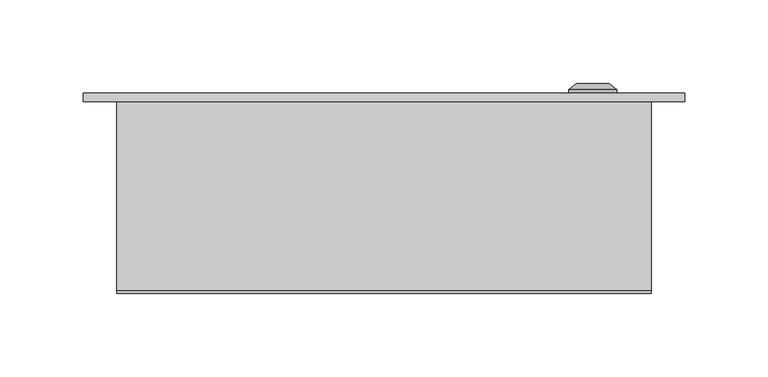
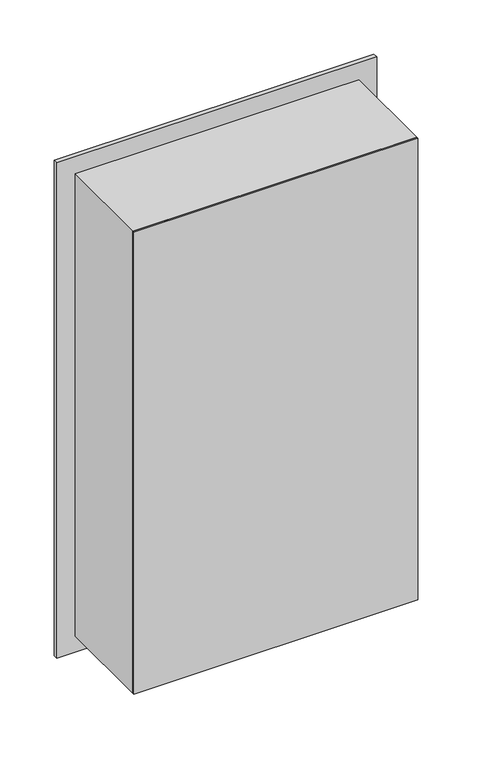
"""IFC4 building model written with IfcOpenShell, lengths in millimetres: proxy geometry, ЩРВ_36 : ЩРВ-36."""

from ifc_helpers import new_model, si_unit, frame, origin, origin_with_axes, place, context, project, spatial, polyline, circle_curve, outline, extrude, source, transform, mapped, element, save
from ifc_brep_helpers import plane_surface, cylinder_surface, revolved_surface, advanced_brep


def electrical_equipment_84546ef7(model_context):
    return source(origin(), model_context, "Body", "SolidModel", [
        extrude(outline(polyline([(570.0, -180.0033905), (-20.0, -180.0033905), (-20.0, 179.9966095), (570.0, 179.9966095), (570.0, -180.0033905)]), holes=[polyline([(545.0, -155.0), (545.0, 155.0), (5.0, 155.0), (5.0, -155.0), (545.0, -155.0)])]), frame((0.0, 115.0, 0.0), z_axis=(0.0, 1.0, 0.0), x_axis=(0.0, 0.0, 1.0)), (0.0, 0.0, 1.0), 5.0),
        advanced_brep(
        [(110.669873, 120.0, 275.0), (139.330127, 120.0, 275.0), (125.0, 120.0, 275.0), (110.669873, 122.366592, 275.0), (139.330127, 122.366592, 275.0), (115.0, 126.0, 275.0), (135.0, 126.0, 275.0), (123.1080471, 126.0, 275.0), (126.8919529, 126.0, 275.0), (123.1080471, 124.9822294, 275.0), (126.8919529, 124.9822294, 275.0), (125.0, 124.9822294, 275.0)],
        [
            (0, 1, circle_curve(frame((125.0, 120.0, 275.0), z_axis=(0.0, -1.0, 0.0), x_axis=(1.0, 0.0, 0.0)), 14.330127)),
            (1, 2),
            (2, 0),
            (1, 0, circle_curve(frame((125.0, 120.0, 275.0), z_axis=(0.0, -1.0, 0.0), x_axis=(1.0, 0.0, 0.0)), 14.330127)),
            (3, 4, circle_curve(frame((125.0, 122.366592, 275.0), z_axis=(0.0, -1.0, 0.0), x_axis=(1.0, 0.0, 0.0)), 14.330127)),
            (4, 1),
            (0, 3),
            (4, 3, circle_curve(frame((125.0, 122.366592, 275.0), z_axis=(0.0, -1.0, 0.0), x_axis=(1.0, 0.0, 0.0)), 14.330127)),
            (5, 6, circle_curve(frame((125.0, 126.0, 275.0), z_axis=(0.0, -1.0, 0.0), x_axis=(1.0, 0.0, 0.0)), 10.0)),
            (6, 4),
            (3, 5),
            (6, 5, circle_curve(frame((125.0, 126.0, 275.0), z_axis=(0.0, -1.0, 0.0), x_axis=(1.0, 0.0, 0.0)), 10.0)),
            (7, 8, circle_curve(frame((125.0, 126.0, 275.0), z_axis=(0.0, -1.0, 0.0), x_axis=(1.0, 0.0, 0.0)), 1.8919529)),
            (8, 6),
            (5, 7),
            (8, 7, circle_curve(frame((125.0, 126.0, 275.0), z_axis=(0.0, -1.0, 0.0), x_axis=(1.0, 0.0, 0.0)), 1.8919529)),
            (9, 10, circle_curve(frame((125.0, 124.9822294, 275.0), z_axis=(0.0, -1.0, 0.0), x_axis=(1.0, 0.0, 0.0)), 1.8919529)),
            (10, 8),
            (7, 9),
            (10, 9, circle_curve(frame((125.0, 124.9822294, 275.0), z_axis=(0.0, -1.0, 0.0), x_axis=(1.0, 0.0, 0.0)), 1.8919529)),
            (11, 10),
            (9, 11),
        ],
        [
            plane_surface(frame((125.0, 120.0, 275.0), z_axis=(0.0, -1.0, 0.0), x_axis=(1.0, 0.0, 0.0))),
            cylinder_surface(frame((125.0, 133.1348851, 275.0), z_axis=(0.0, 1.0, 0.0), x_axis=(1.0, 0.0, 0.0)), 14.330127),
            revolved_surface(polyline([(139.330127, 122.366592, 275.0), (135.0, 126.0, 275.0)]), (125.0, 133.1348851, 275.0), (0.0, 1.0, 0.0)),
            plane_surface(frame((125.0, 126.0, 275.0), z_axis=(0.0, 1.0, 0.0), x_axis=(1.0, 0.0, 0.0))),
            revolved_surface(polyline([(126.8919529, 126.0, 275.0), (126.8919529, 124.9822294, 275.0)]), (125.0, 133.1348851, 275.0), (0.0, 1.0, 0.0)),
            plane_surface(frame((125.0, 124.9822294, 275.0), z_axis=(0.0, 1.0, 0.0), x_axis=(1.0, 0.0, 0.0))),
        ],
        [
            (0, [[1, 2, 3]]),
            (0, [[4, -3, -2]]),
            (1, [[5, 6, -1, 7]]),
            (1, [[8, -7, -4, -6]]),
            (2, [[9, 10, -5, 11]]),
            (2, [[12, -11, -8, -10]]),
            (3, [[13, 14, -9, 15]]),
            (3, [[16, -15, -12, -14]]),
            (4, [[17, 18, -13, 19]]),
            (4, [[20, -19, -16, -18]]),
            (5, [[21, -17, 22]]),
            (5, [[-22, -20, -21]]),
        ],
    ),
        extrude(outline(polyline([(154.0, 115.0), (-154.0, 115.0), (-154.0, 120.0), (154.0, 120.0), (154.0, 115.0)])), frame((0.0, 0.0, 6.0), z_axis=(0.0, 0.0, 1.0), x_axis=(1.0, 0.0, 0.0)), (0.0, 0.0, 1.0), 538.0),
        extrude(outline(polyline([(550.0, -160.0033905), (0.0, -160.0033905), (0.0, 159.9966095), (550.0, 159.9966095), (550.0, -160.0033905)]), holes=[polyline([(545.0, -155.0), (545.0, 155.0), (5.0, 155.0), (5.0, -155.0), (545.0, -155.0)])]), frame((0.0, 2.0, 0.0), z_axis=(0.0, 1.0, 0.0), x_axis=(0.0, 0.0, 1.0)), (0.0, 0.0, 1.0), 113.0),
        extrude(outline(polyline([(160.0, 0.0), (-160.0, 0.0), (-160.0, 2.0), (160.0, 2.0), (160.0, 0.0)])), origin_with_axes(), (0.0, 0.0, 1.0), 550.0),
    ])


if __name__ == "__main__":
    model = new_model("IFC4")
    model_context = context("Model", 3, world=origin())
    ifc_project = project(units=[si_unit("LENGTHUNIT", "METRE", prefix="MILLI")], contexts=[model_context])
    site = spatial("IfcSite", under=ifc_project)
    building = spatial("IfcBuilding", under=site)
    placement = place(None, origin())
    electrical_equipment_shape = electrical_equipment_84546ef7(model_context)
    element("IfcBuildingElementProxy", 1, Name="ЩРВ_36 : ЩРВ-36", ObjectType="ЩРВ_36 : ЩРВ-36", at=placement, inside=building, context=model_context, shape_type="MappedRepresentation", body=[
        mapped(electrical_equipment_shape, transform((0.0, 0.0, 0.0), x_axis=(1.0, 0.0, 0.0), y_axis=(0.0, 1.0, 0.0), z_axis=(0.0, 0.0, 1.0))),
    ])
    save(model, "model.ifc")
